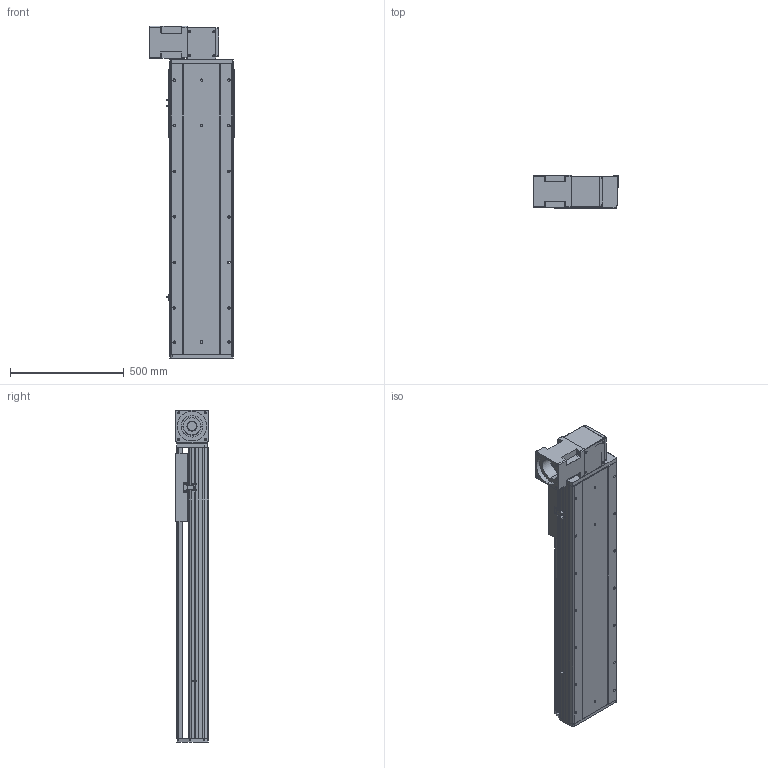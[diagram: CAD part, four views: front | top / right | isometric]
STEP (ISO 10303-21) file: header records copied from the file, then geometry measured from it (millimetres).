
FILE_DESCRIPTION (( 'STEP AP214' ), '1' );
FILE_NAME ('RTB28R-XX-850-BR-M100-XX-C4.STEP', '2025-12-22T01:09:26', ( '' ), ( '' ), 'SwSTEP 2.0', 'SolidWorks 2018', '' );
FILE_SCHEMA (( 'AUTOMOTIVE_DESIGN' ));
Length unit declared in the file: millimetre
Products named in the file (4): RTB28S-GY-008^RTB28R-XX-XX-BR-M100-XX-C4; RTB28R-XX-850-BR-M100-XX-C4; RTB28S-GY-004^RTB28R-XX-XX-BR-M100-XX-C4; RTB28S-GY-011^RTB28R-XX-XX-BR-M100-XX-C4
Assembly tree (3 placements, depth 2):
  RTB28R-XX-850-BR-M100-XX-C4
    RTB28S-GY-011^RTB28R-XX-XX-BR-M100-XX-C4
    RTB28S-GY-004^RTB28R-XX-XX-BR-M100-XX-C4
    RTB28S-GY-008^RTB28R-XX-XX-BR-M100-XX-C4
Bounding box: 370 x 145 x 1457 mm (x, y, z)
Volume: 27253372.1 mm3; surface area: 2647934.6 mm2
Topology: 3 solids, 4 shells, 978 faces, 2580 edges, 1656 vertices
Faces by surface type: plane 454, cylinder 353, bspline 87, cone 80, torus 4
Entity records: 41716 total; most frequent: CARTESIAN_POINT 11095, ORIENTED_EDGE 5096, DIRECTION 4932, EDGE_CURVE 2548, AXIS2_PLACEMENT_3D 1685, VERTEX_POINT 1656, LINE 1562, VECTOR 1562
